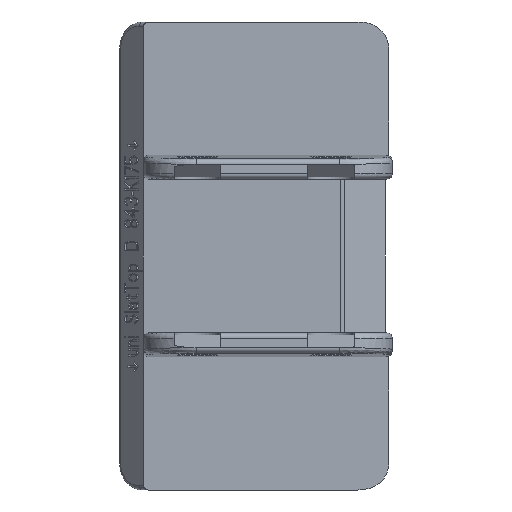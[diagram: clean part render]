
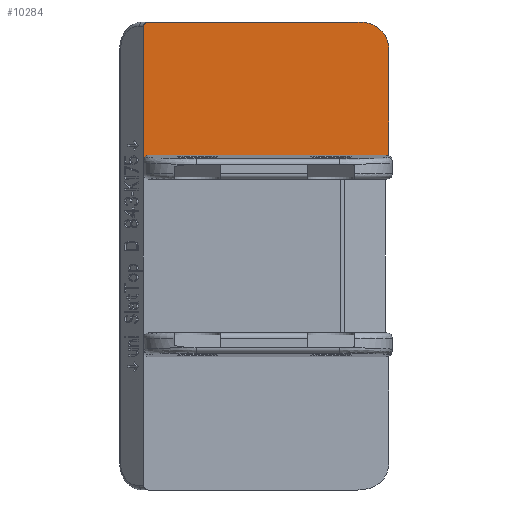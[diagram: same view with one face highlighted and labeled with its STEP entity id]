
A CAD part, front view. The second image highlights one B-rep face of the part: STEP entity #10284.
In plain terms, the highlighted planar face has unit normal (0, -1, 0).
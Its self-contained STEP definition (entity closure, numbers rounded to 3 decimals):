
#69=CARTESIAN_POINT('',(-9.961,11.18,22.2));
#70=CARTESIAN_POINT('',(-10.034,11.18,22.2));
#71=CARTESIAN_POINT('',(-10.158,11.18,22.177));
#72=CARTESIAN_POINT('',(-10.304,11.18,22.105));
#73=CARTESIAN_POINT('',(-10.396,11.18,22.014));
#74=CARTESIAN_POINT('',(-10.445,11.18,21.917));
#75=CARTESIAN_POINT('',(-10.458,11.18,21.857));
#76=CARTESIAN_POINT('',(-10.458,11.18,21.82));
#78=DIRECTION('',(1.,0.,0.));
#79=VECTOR('',#78,19.839);
#80=CARTESIAN_POINT('',(-9.961,11.18,22.2));
#81=LINE('',#80,#79);
#82=CARTESIAN_POINT('',(12.807,11.18,19.7));
#83=CARTESIAN_POINT('',(12.807,11.18,19.804));
#84=CARTESIAN_POINT('',(12.793,11.18,20.012));
#85=CARTESIAN_POINT('',(12.729,11.18,20.326));
#86=CARTESIAN_POINT('',(12.622,11.18,20.63));
#87=CARTESIAN_POINT('',(12.475,11.18,20.916));
#88=CARTESIAN_POINT('',(12.292,11.18,21.18));
#89=CARTESIAN_POINT('',(12.071,11.18,21.423));
#90=CARTESIAN_POINT('',(11.814,11.18,21.639));
#91=CARTESIAN_POINT('',(11.522,11.18,21.826));
#92=CARTESIAN_POINT('',(11.204,11.18,21.976));
#93=CARTESIAN_POINT('',(10.869,11.18,22.086));
#94=CARTESIAN_POINT('',(10.533,11.18,22.156));
#95=CARTESIAN_POINT('',(10.201,11.18,22.193));
#96=CARTESIAN_POINT('',(9.985,11.18,22.2));
#97=CARTESIAN_POINT('',(9.877,11.18,22.2));
#99=DIRECTION('',(0.,0.,-1.));
#100=VECTOR('',#99,10.625);
#101=CARTESIAN_POINT('',(12.807,11.18,19.7));
#102=LINE('',#101,#100);
#103=DIRECTION('',(0.,0.,1.));
#104=VECTOR('',#103,12.739);
#105=CARTESIAN_POINT('',(-10.458,11.18,9.081));
#106=LINE('',#105,#104);
#2625=DIRECTION('',(1.,0.,0.));
#2626=VECTOR('',#2625,22.217);
#2627=CARTESIAN_POINT('',(-9.958,11.18,9.581));
#2628=LINE('',#2627,#2626);
#3121=CARTESIAN_POINT('',(-10.458,11.18,9.081));
#3122=CARTESIAN_POINT('',(-10.457,11.18,9.165));
#3123=CARTESIAN_POINT('',(-10.421,11.18,9.295));
#3124=CARTESIAN_POINT('',(-10.318,11.18,9.442));
#3125=CARTESIAN_POINT('',(-10.171,11.18,9.545));
#3126=CARTESIAN_POINT('',(-10.041,11.18,9.581));
#3127=CARTESIAN_POINT('',(-9.958,11.18,9.581));
#3506=CARTESIAN_POINT('',(12.259,11.18,9.581));
#3507=CARTESIAN_POINT('',(12.293,11.18,9.581));
#3508=CARTESIAN_POINT('',(12.358,11.18,9.576));
#3509=CARTESIAN_POINT('',(12.455,11.18,9.551));
#3510=CARTESIAN_POINT('',(12.543,11.18,9.512));
#3511=CARTESIAN_POINT('',(12.622,11.18,9.459));
#3512=CARTESIAN_POINT('',(12.689,11.18,9.394));
#3513=CARTESIAN_POINT('',(12.741,11.18,9.322));
#3514=CARTESIAN_POINT('',(12.779,11.18,9.243));
#3515=CARTESIAN_POINT('',(12.802,11.18,9.159));
#3516=CARTESIAN_POINT('',(12.807,11.18,9.103));
#3517=CARTESIAN_POINT('',(12.807,11.18,9.075));
#7830=CARTESIAN_POINT('',(-10.458,11.18,9.081));
#7832=VERTEX_POINT('',#7830);
#7833=VERTEX_POINT('',#3127);
#7834=VERTEX_POINT('',#3506);
#7835=VERTEX_POINT('',#3517);
#7914=VERTEX_POINT('',#82);
#7915=VERTEX_POINT('',#97);
#7926=VERTEX_POINT('',#69);
#7927=VERTEX_POINT('',#76);
#10263=CARTESIAN_POINT('',(-13.143,11.18,22.2));
#10264=DIRECTION('',(0.,-1.,0.));
#10265=DIRECTION('',(0.,0.,-1.));
#10266=AXIS2_PLACEMENT_3D('',#10263,#10264,#10265);
#10267=PLANE('',#10266);
#10269=ORIENTED_EDGE('',*,*,#10268,.F.);
#10271=ORIENTED_EDGE('',*,*,#10270,.T.);
#10272=ORIENTED_EDGE('',*,*,#10253,.F.);
#10273=ORIENTED_EDGE('',*,*,#10231,.T.);
#10275=ORIENTED_EDGE('',*,*,#10274,.F.);
#10277=ORIENTED_EDGE('',*,*,#10276,.F.);
#10279=ORIENTED_EDGE('',*,*,#10278,.F.);
#10281=ORIENTED_EDGE('',*,*,#10280,.T.);
#10282=EDGE_LOOP('',(#10269,#10271,#10272,#10273,#10275,#10277,#10279,#10281));
#10283=FACE_OUTER_BOUND('',#10282,.F.);
#10284=ADVANCED_FACE('',(#10283),#10267,.T.);
#77=B_SPLINE_CURVE_WITH_KNOTS('',3,(#69,#70,#71,#72,#73,#74,#75,#76),
.UNSPECIFIED.,.F.,.F.,(4,1,1,1,1,4),(0.,0.25,0.5,0.75,0.875,1.),
.UNSPECIFIED.);
#98=B_SPLINE_CURVE_WITH_KNOTS('',3,(#82,#83,#84,#85,#86,#87,#88,#89,#90,#91,#92,
#93,#94,#95,#96,#97),.UNSPECIFIED.,.F.,.F.,(4,1,1,1,1,1,1,1,1,1,1,1,1,4),(0.,
0.077,0.154,0.231,0.308,
0.385,0.462,0.538,0.615,
0.692,0.769,0.846,0.923,1.),
.UNSPECIFIED.);
#3128=B_SPLINE_CURVE_WITH_KNOTS('',3,(#3121,#3122,#3123,#3124,#3125,#3126,
#3127),.UNSPECIFIED.,.F.,.F.,(4,1,1,1,4),(0.,0.25,0.5,0.75,1.),
.UNSPECIFIED.);
#3518=B_SPLINE_CURVE_WITH_KNOTS('',3,(#3506,#3507,#3508,#3509,#3510,#3511,#3512,
#3513,#3514,#3515,#3516,#3517),.UNSPECIFIED.,.F.,.F.,(4,1,1,1,1,1,1,1,1,4),
(0.,0.111,0.222,0.333,0.444,
0.556,0.667,0.778,0.889,1.),
.UNSPECIFIED.);
#10231=EDGE_CURVE('',#7914,#7835,#102,.T.);
#10253=EDGE_CURVE('',#7914,#7915,#98,.T.);
#10268=EDGE_CURVE('',#7926,#7927,#77,.T.);
#10270=EDGE_CURVE('',#7926,#7915,#81,.T.);
#10274=EDGE_CURVE('',#7834,#7835,#3518,.T.);
#10276=EDGE_CURVE('',#7833,#7834,#2628,.T.);
#10278=EDGE_CURVE('',#7832,#7833,#3128,.T.);
#10280=EDGE_CURVE('',#7832,#7927,#106,.T.);
